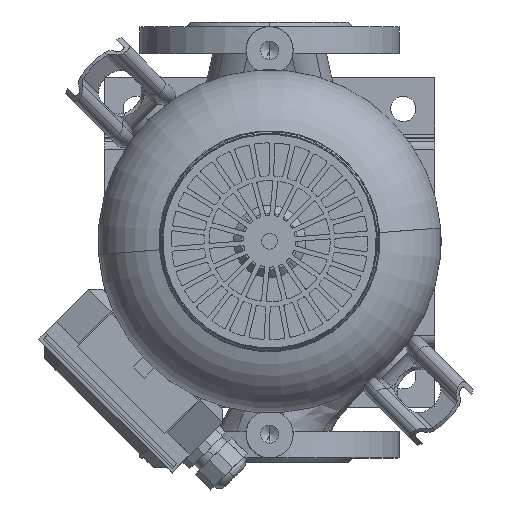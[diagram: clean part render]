
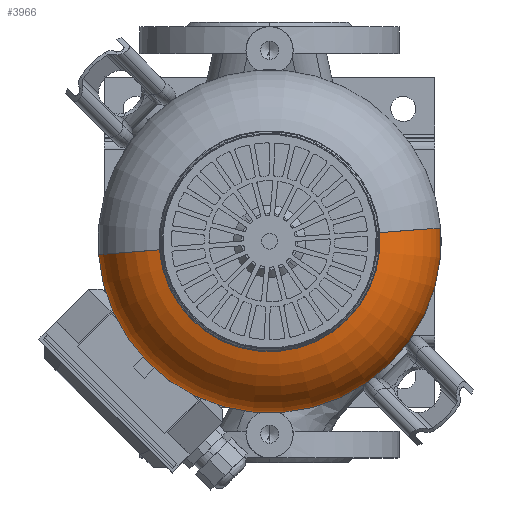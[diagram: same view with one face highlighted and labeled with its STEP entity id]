
A CAD part, top view. The second image highlights one B-rep face of the part: STEP entity #3966.
In plain terms, the highlighted toroidal (fillet/blend) face has major radius 59 mm and minor radius 50 mm.
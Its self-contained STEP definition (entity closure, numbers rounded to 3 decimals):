
#3966=ADVANCED_FACE('NONE',(#10023),#10024,.T.);
#10023=FACE_OUTER_BOUND('',#16159,.T.);
#10024=TOROIDAL_SURFACE('',#16160,59.0,50.0);
#16159=EDGE_LOOP('',(#24487,#24488,#24489,#24490));
#16160=AXIS2_PLACEMENT_3D('',#24491,#24492,#24493);
#24487=ORIENTED_EDGE('',*,*,#34638,.F.);
#24488=ORIENTED_EDGE('',*,*,#34637,.T.);
#24489=ORIENTED_EDGE('',*,*,#34639,.F.);
#24490=ORIENTED_EDGE('',*,*,#34640,.T.);
#24491=CARTESIAN_POINT('',(49.225,0.0,0.0));
#24492=DIRECTION('',(1.0,0.,0.));
#24493=DIRECTION('',(0.,0.,-1.0));
#34637=EDGE_CURVE('NONE',#42680,#42684,#42686,.T.);
#34638=EDGE_CURVE('',#42680,#42687,#42688,.T.);
#34639=EDGE_CURVE('',#42689,#42684,#42690,.T.);
#34640=EDGE_CURVE('NONE',#42689,#42687,#42691,.T.);
#42680=VERTEX_POINT('',#56903);
#42684=VERTEX_POINT('NONE',#56908);
#42686=CIRCLE('',#56911,109.);
#42687=VERTEX_POINT('NONE',#56912);
#42688=CIRCLE('',#56913,50.0);
#42689=VERTEX_POINT('',#56914);
#42690=CIRCLE('',#56915,50.0);
#42691=CIRCLE('',#56916,70.229);
#56903=CARTESIAN_POINT('',(49.225,0.,-109.));
#56908=CARTESIAN_POINT('',(49.225,0.,109.0));
#56911=AXIS2_PLACEMENT_3D('',#65877,#65878,#65879);
#56912=CARTESIAN_POINT('',(97.948,0.,-70.229));
#56913=AXIS2_PLACEMENT_3D('',#65880,#65881,#65882);
#56914=CARTESIAN_POINT('',(97.948,0.,70.229));
#56915=AXIS2_PLACEMENT_3D('',#65883,#65884,#65885);
#56916=AXIS2_PLACEMENT_3D('',#65886,#65887,#65888);
#65877=CARTESIAN_POINT('',(49.225,0.0,0.0));
#65878=DIRECTION('',(1.0,0.,0.));
#65879=DIRECTION('',(0.,0.,-1.0));
#65880=CARTESIAN_POINT('',(49.225,0.,-59.0));
#65881=DIRECTION('',(0.,-1.0,0.));
#65882=DIRECTION('',(0.,0.,-1.0));
#65883=CARTESIAN_POINT('',(49.225,0.,59.0));
#65884=DIRECTION('',(0.,-1.0,0.));
#65885=DIRECTION('',(0.,0.,1.0));
#65886=CARTESIAN_POINT('',(97.948,0.0,0.0));
#65887=DIRECTION('',(-1.0,0.,0.));
#65888=DIRECTION('',(0.,0.,1.0));
